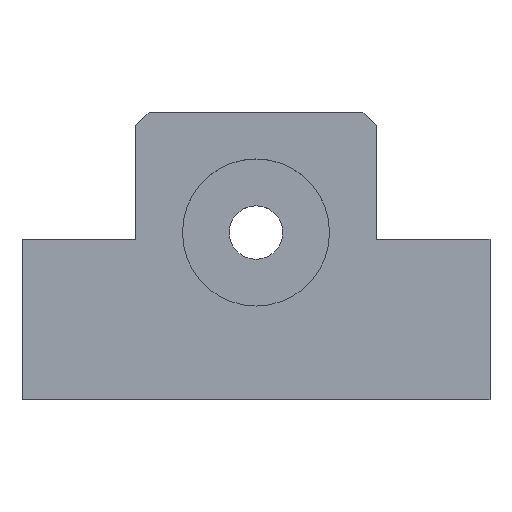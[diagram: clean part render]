
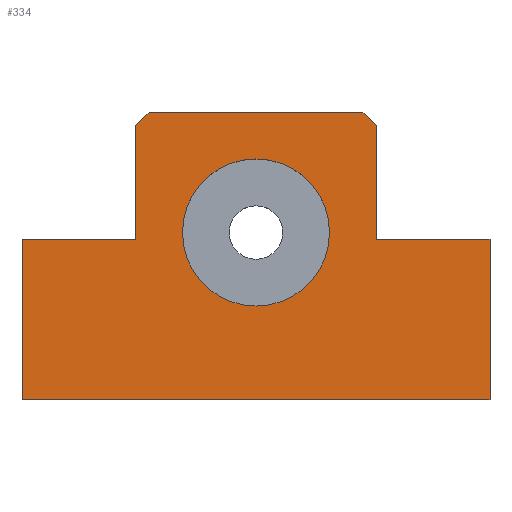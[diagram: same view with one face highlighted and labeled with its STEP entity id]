
A CAD part, top view. The second image highlights one B-rep face of the part: STEP entity #334.
In plain terms, the highlighted planar face has unit normal (0, 0, 1).
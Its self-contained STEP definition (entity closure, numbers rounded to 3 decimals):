
#36=FACE_BOUND($,#91,.T.);
#42=CIRCLE($,#351,11.);
#59=FACE_OUTER_BOUND($,#90,.T.);
#90=EDGE_LOOP($,(#291,#292,#293,#294,#295,#296,#297,#298,#299,#300));
#91=EDGE_LOOP($,(#301));
#92=LINE($,#461,#122);
#98=LINE($,#472,#128);
#107=LINE($,#493,#137);
#110=LINE($,#524,#140);
#112=LINE($,#528,#142);
#114=LINE($,#531,#144);
#115=LINE($,#534,#145);
#117=LINE($,#538,#147);
#119=LINE($,#542,#149);
#121=LINE($,#545,#151);
#122=VECTOR($,#371,2.828);
#128=VECTOR($,#379,32.);
#137=VECTOR($,#394,2.828);
#140=VECTOR($,#431,24.);
#142=VECTOR($,#435,17.);
#144=VECTOR($,#439,17.);
#145=VECTOR($,#442,17.);
#147=VECTOR($,#446,17.);
#149=VECTOR($,#450,24.);
#151=VECTOR($,#454,70.);
#152=VERTEX_POINT($,#459);
#153=VERTEX_POINT($,#460);
#157=VERTEX_POINT($,#470);
#166=VERTEX_POINT($,#492);
#171=VERTEX_POINT($,#507);
#176=VERTEX_POINT($,#521);
#177=VERTEX_POINT($,#523);
#178=VERTEX_POINT($,#527);
#179=VERTEX_POINT($,#533);
#180=VERTEX_POINT($,#537);
#181=VERTEX_POINT($,#541);
#182=EDGE_CURVE($,#152,#153,#92,.T.);
#188=EDGE_CURVE($,#152,#157,#98,.T.);
#198=EDGE_CURVE($,#166,#157,#107,.T.);
#204=EDGE_CURVE($,#171,#171,#42,.T.);
#210=EDGE_CURVE($,#177,#176,#110,.T.);
#212=EDGE_CURVE($,#178,#177,#112,.T.);
#214=EDGE_CURVE($,#166,#178,#114,.T.);
#215=EDGE_CURVE($,#179,#153,#115,.T.);
#217=EDGE_CURVE($,#180,#179,#117,.T.);
#219=EDGE_CURVE($,#181,#180,#119,.T.);
#221=EDGE_CURVE($,#176,#181,#121,.T.);
#291=ORIENTED_EDGE($,*,*,#182,.F.);
#292=ORIENTED_EDGE($,*,*,#188,.T.);
#293=ORIENTED_EDGE($,*,*,#198,.F.);
#294=ORIENTED_EDGE($,*,*,#214,.T.);
#295=ORIENTED_EDGE($,*,*,#212,.T.);
#296=ORIENTED_EDGE($,*,*,#210,.T.);
#297=ORIENTED_EDGE($,*,*,#221,.T.);
#298=ORIENTED_EDGE($,*,*,#219,.T.);
#299=ORIENTED_EDGE($,*,*,#217,.T.);
#300=ORIENTED_EDGE($,*,*,#215,.T.);
#301=ORIENTED_EDGE($,*,*,#204,.T.);
#315=PLANE($,#366);
#334=ADVANCED_FACE($,(#59,#36),#315,.T.);
#351=AXIS2_PLACEMENT_3D($,#508,#412,#413);
#366=AXIS2_PLACEMENT_3D($,#546,#455,#456);
#371=DIRECTION($,(0.707,-0.707,0.));
#379=DIRECTION($,(-1.,0.,0.));
#394=DIRECTION($,(0.707,0.707,0.));
#412=DIRECTION('center_axis',(0.,0.,-1.));
#413=DIRECTION('ref_axis',(-1.,0.,0.));
#431=DIRECTION($,(0.,-1.,0.));
#435=DIRECTION($,(-1.,0.,0.));
#439=DIRECTION($,(0.,-1.,0.));
#442=DIRECTION($,(0.,1.,0.));
#446=DIRECTION($,(-1.,0.,0.));
#450=DIRECTION($,(0.,1.,0.));
#454=DIRECTION($,(1.,0.,0.));
#455=DIRECTION('center_axis',(0.,0.,1.));
#456=DIRECTION('ref_axis',(1.,0.,0.));
#459=CARTESIAN_POINT('',(51.,43.,20.));
#460=CARTESIAN_POINT('',(53.,41.,20.));
#461=CARTESIAN_POINT($,(53.59,40.41,20.));
#470=CARTESIAN_POINT('',(19.,43.,20.));
#472=CARTESIAN_POINT($,(53.,43.,20.));
#492=CARTESIAN_POINT('',(17.,41.,20.));
#493=CARTESIAN_POINT($,(16.41,40.41,20.));
#507=CARTESIAN_POINT('',(46.,25.,20.));
#508=CARTESIAN_POINT('Origin',(35.,25.,20.));
#521=CARTESIAN_POINT('',(0.,0.,20.));
#523=CARTESIAN_POINT('',(0.,24.,20.));
#524=CARTESIAN_POINT($,(0.,24.,20.));
#527=CARTESIAN_POINT('',(17.,24.,20.));
#528=CARTESIAN_POINT($,(17.,24.,20.));
#531=CARTESIAN_POINT($,(17.,43.,20.));
#533=CARTESIAN_POINT('',(53.,24.,20.));
#534=CARTESIAN_POINT($,(53.,24.,20.));
#537=CARTESIAN_POINT('',(70.,24.,20.));
#538=CARTESIAN_POINT($,(70.,24.,20.));
#541=CARTESIAN_POINT('',(70.,0.,20.));
#542=CARTESIAN_POINT($,(70.,0.,20.));
#545=CARTESIAN_POINT($,(0.,0.,20.));
#546=CARTESIAN_POINT('Origin',(35.,18.642,20.));
